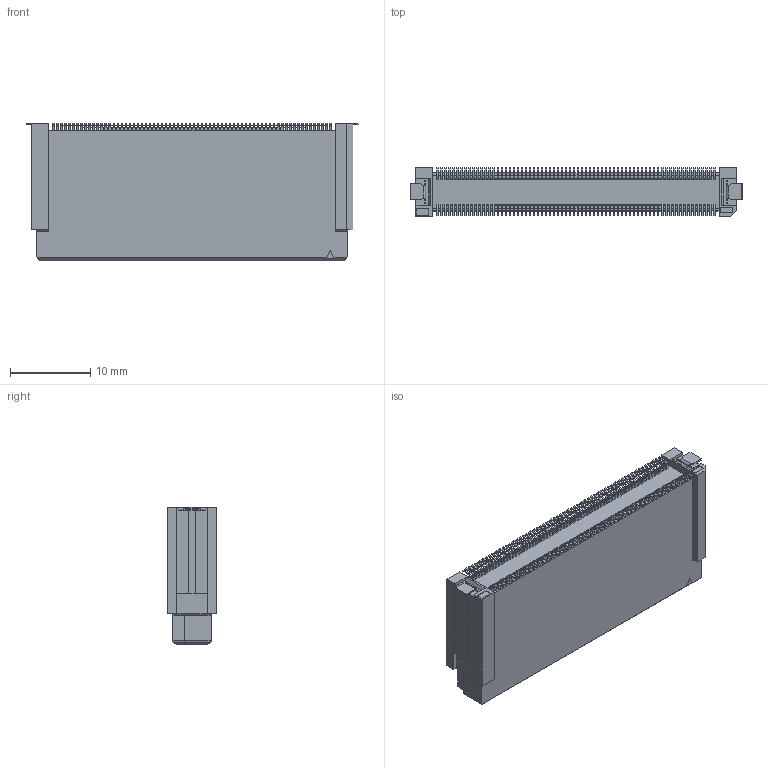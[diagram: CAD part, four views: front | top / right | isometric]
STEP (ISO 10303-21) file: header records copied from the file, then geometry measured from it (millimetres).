
FILE_DESCRIPTION(('Creo Elements/Direct Modeling STEP Export'),'2;1');
FILE_NAME('P3D464_DT10-140S-19-T.stp','2022-03-16T11:12:50',(''),(''),'Creo Elements/Direct Modeling STEP processor for AP214 (Solid Model)','Creo Elements/Direct Modeling 20.4A 18-Oct-2021 (C) Parametric Technology GmbH','');
FILE_SCHEMA(('AUTOMOTIVE_DESIGN { 1 0 10303 214 1 1 1 1 }'));
Products named in the file (2): DT10-140S-19-T
Assembly tree (1 placements, depth 2):
  DT10-140S-19-T
    DT10-140S-19-T
Bounding box: 41.4 x 6.2 x 17.18 mm (x, y, z)
Volume: 2983.1 mm3; surface area: 2504.2 mm2
Topology: 1 solids, 1 shells, 4223 faces, 11930 edges, 7856 vertices
Faces by surface type: plane 3371, cylinder 852
Entity records: 134764 total; most frequent: ORIENTED_EDGE 23860, CARTESIAN_POINT 23728, DIRECTION 22080, EDGE_CURVE 11930, VECTOR 9664, LINE 9664, VERTEX_POINT 7856, AXIS2_PLACEMENT_3D 6208
